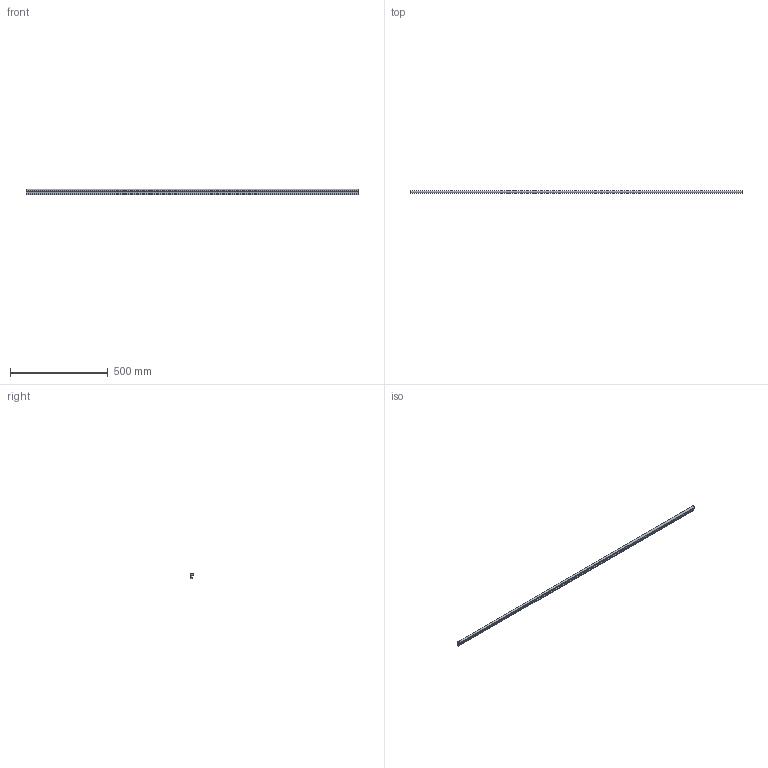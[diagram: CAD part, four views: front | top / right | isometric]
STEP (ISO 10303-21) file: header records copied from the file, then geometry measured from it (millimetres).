
FILE_DESCRIPTION( ( '' ), '1' );
FILE_NAME( 'D:/temp/hettich_stp/hettich/prodecor_handles/organic/115111.stp', '2013-02-26T12:49:37', ( '' ), ( '' ), ' ', ' ', ' ' );
FILE_SCHEMA( ( 'automotive_design' ) );
Length unit declared in the file: millimetre
Products named in the file (1): 1
Bounding box: 1700 x 12 x 27 mm (x, y, z)
Volume: 350940.5 mm3; surface area: 124989.5 mm2
Topology: 1 solids, 1 shells, 24 faces, 51 edges, 34 vertices
Faces by surface type: cylinder 12, plane 12
Entity records: 1300 total; most frequent: DIRECTION 125, STYLED_ITEM 110, PRESENTATION_STYLE_ASSIGNMENT 110, CARTESIAN_POINT 110, COLOUR_RGB 110, ORIENTED_EDGE 102, EDGE_CURVE 51, CURVE_STYLE 51
